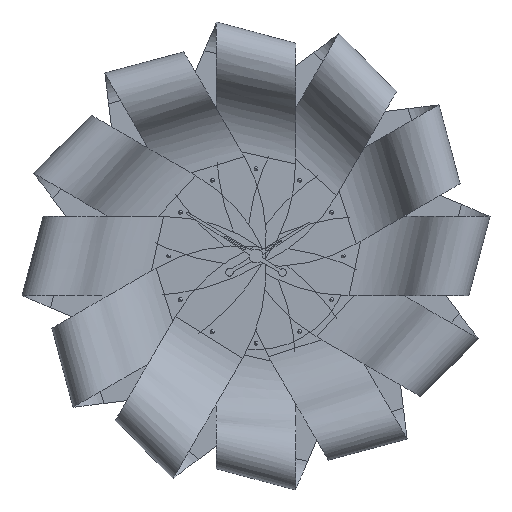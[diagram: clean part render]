
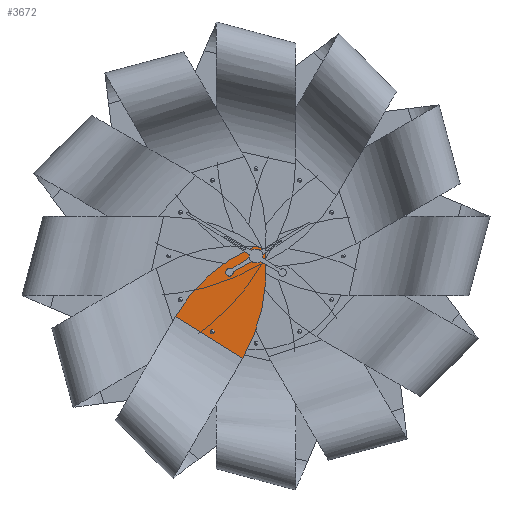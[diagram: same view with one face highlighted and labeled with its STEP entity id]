
A CAD part, top view. The second image highlights one B-rep face of the part: STEP entity #3672.
In plain terms, the highlighted planar face has unit normal (0, 0, 1).
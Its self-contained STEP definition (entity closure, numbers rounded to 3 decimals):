
#122 = VECTOR ( 'NONE', #7360, 1000. ) ;
#150 = ORIENTED_EDGE ( 'NONE', *, *, #9908, .T. ) ;
#231 = ORIENTED_EDGE ( 'NONE', *, *, #3351, .T. ) ;
#953 = CIRCLE ( 'NONE', #7403, 15. ) ;
#1095 = CARTESIAN_POINT ( 'NONE',  ( 91.598, -120.183, 3.4 ) ) ;
#1103 = ORIENTED_EDGE ( 'NONE', *, *, #4596, .T. ) ;
#1338 = CARTESIAN_POINT ( 'NONE',  ( 103.861, -111.545, 3.4 ) ) ;
#1384 = LINE ( 'NONE', #7408, #122 ) ;
#1444 = CIRCLE ( 'NONE', #3440, 280.134 ) ;
#1702 = CARTESIAN_POINT ( 'NONE',  ( 40.482, 41.142, 3.4 ) ) ;
#1829 = EDGE_CURVE ( 'NONE', #4188, #6169, #1444, .T. ) ;
#1957 = DIRECTION ( 'NONE',  ( 0., 0., -1. ) ) ;
#2005 = CARTESIAN_POINT ( 'NONE',  ( 320.615, 41.142, 3.4 ) ) ;
#2580 = AXIS2_PLACEMENT_3D ( 'NONE', #7247, #1957, #2829 ) ;
#2772 = CARTESIAN_POINT ( 'NONE',  ( 115.972, -120.394, 3.4 ) ) ;
#2829 = DIRECTION ( 'NONE',  ( -1., 0., 0. ) ) ;
#3118 = DIRECTION ( 'NONE',  ( 0., 0., 1. ) ) ;
#3351 = EDGE_CURVE ( 'NONE', #6169, #10883, #953, .T. ) ;
#3440 = AXIS2_PLACEMENT_3D ( 'NONE', #2005, #7334, #9914 ) ;
#3592 = VERTEX_POINT ( 'NONE', #8849 ) ;
#3672 = ADVANCED_FACE ( 'NONE', ( #6355 ), #11421, .F. ) ;
#4001 = DIRECTION ( 'NONE',  ( 1., 0., 0. ) ) ;
#4188 = VERTEX_POINT ( 'NONE', #1702 ) ;
#4236 = CARTESIAN_POINT ( 'NONE',  ( -98.998, 36.673, 3.4 ) ) ;
#4336 = ORIENTED_EDGE ( 'NONE', *, *, #1829, .T. ) ;
#4596 = EDGE_CURVE ( 'NONE', #10883, #3592, #10479, .T. ) ;
#6169 = VERTEX_POINT ( 'NONE', #1095 ) ;
#6355 = FACE_OUTER_BOUND ( 'NONE', #7376, .T. ) ;
#7247 = CARTESIAN_POINT ( 'NONE',  ( -98.998, 36.673, 3.4 ) ) ;
#7334 = DIRECTION ( 'NONE',  ( 0., 0., 1. ) ) ;
#7360 = DIRECTION ( 'NONE',  ( -0.999, 0.035, 0. ) ) ;
#7376 = EDGE_LOOP ( 'NONE', ( #1103, #150, #4336, #231 ) ) ;
#7403 = AXIS2_PLACEMENT_3D ( 'NONE', #1338, #3118, #4001 ) ;
#7408 = CARTESIAN_POINT ( 'NONE',  ( 167.239, 36.673, 3.4 ) ) ;
#8574 = DIRECTION ( 'NONE',  ( -1., 0., 0. ) ) ;
#8849 = CARTESIAN_POINT ( 'NONE',  ( 167.239, 36.673, 3.4 ) ) ;
#9613 = AXIS2_PLACEMENT_3D ( 'NONE', #4236, #10428, #8574 ) ;
#9908 = EDGE_CURVE ( 'NONE', #3592, #4188, #1384, .T. ) ;
#9914 = DIRECTION ( 'NONE',  ( -1., 0., 0. ) ) ;
#10428 = DIRECTION ( 'NONE',  ( 0., 0., 1. ) ) ;
#10479 = CIRCLE ( 'NONE', #9613, 266.238 ) ;
#10883 = VERTEX_POINT ( 'NONE', #2772 ) ;
#11421 = PLANE ( 'NONE',  #2580 ) ;
